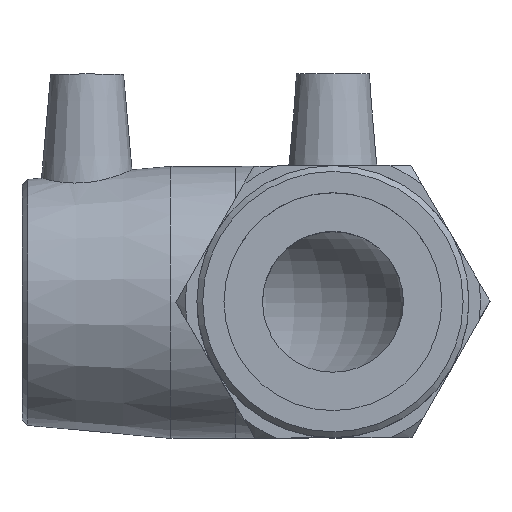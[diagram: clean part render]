
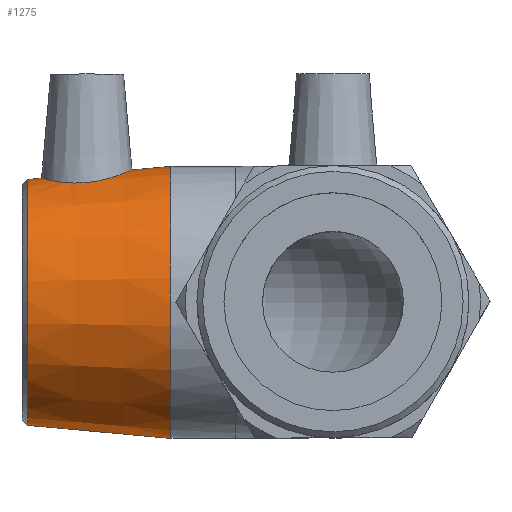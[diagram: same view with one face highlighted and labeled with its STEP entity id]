
A CAD part, top view. The second image highlights one B-rep face of the part: STEP entity #1275.
In plain terms, the highlighted conical face has half-angle 5.217 degrees and reference radius 26.6 mm.
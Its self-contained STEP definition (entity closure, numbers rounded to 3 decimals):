
#17=B_SPLINE_CURVE_WITH_KNOTS('',3,(#2183,#2184,#2185,#2186,#2187,#2188,
#2189,#2190,#2191,#2192,#2193,#2194,#2195,#2196,#2197,#2198,#2199,#2200,
#2201,#2202,#2203,#2204,#2205,#2206,#2207,#2208,#2209,#2210,#2211,#2212,
#2213,#2214,#2215,#2216),.UNSPECIFIED.,.T.,.F.,(4,2,2,2,2,2,2,2,2,2,2,2,
2,2,2,2,4),(0.,0.346,0.692,1.041,1.389,
1.738,2.087,2.432,2.778,3.15,
3.522,3.886,4.249,4.612,4.976,
5.347,5.719),.UNSPECIFIED.);
#24=FACE_BOUND('',#250,.T.);
#25=FACE_BOUND('',#251,.T.);
#123=CONICAL_SURFACE('',#1411,26.6,5.217);
#168=FACE_OUTER_BOUND('',#249,.T.);
#249=EDGE_LOOP('',(#1043));
#250=EDGE_LOOP('',(#1044));
#251=EDGE_LOOP('',(#1045));
#377=CIRCLE('',#1410,25.309);
#378=CIRCLE('',#1412,28.);
#604=VERTEX_POINT('',#2177);
#605=VERTEX_POINT('',#2180);
#606=VERTEX_POINT('',#2182);
#765=EDGE_CURVE('',#604,#604,#377,.T.);
#766=EDGE_CURVE('',#605,#605,#378,.T.);
#767=EDGE_CURVE('',#606,#606,#17,.T.);
#1043=ORIENTED_EDGE('',*,*,#766,.F.);
#1044=ORIENTED_EDGE('',*,*,#767,.T.);
#1045=ORIENTED_EDGE('',*,*,#765,.F.);
#1275=ADVANCED_FACE('',(#168,#24,#25),#123,.T.);
#1410=AXIS2_PLACEMENT_3D('',#2178,#1719,#1720);
#1411=AXIS2_PLACEMENT_3D('',#2179,#1721,#1722);
#1412=AXIS2_PLACEMENT_3D('',#2181,#1723,#1724);
#1719=DIRECTION('center_axis',(-1.,0.,0.));
#1720=DIRECTION('ref_axis',(0.,-1.,0.));
#1721=DIRECTION('center_axis',(1.,0.,0.));
#1722=DIRECTION('ref_axis',(0.,1.,0.));
#1723=DIRECTION('center_axis',(1.,0.,0.));
#1724=DIRECTION('ref_axis',(0.,0.,-1.));
#2177=CARTESIAN_POINT('',(-62.805,25.309,0.));
#2178=CARTESIAN_POINT('Origin',(-62.805,0.,0.));
#2179=CARTESIAN_POINT('Origin',(-48.667,0.,
0.));
#2180=CARTESIAN_POINT('',(-33.333,28.,0.));
#2181=CARTESIAN_POINT('Origin',(-33.333,0.,
0.));
#2182=CARTESIAN_POINT('',(-50.979,24.639,9.449));
#2183=CARTESIAN_POINT('Ctrl Pts',(-50.979,24.639,9.449));
#2184=CARTESIAN_POINT('Ctrl Pts',(-52.128,24.541,9.411));
#2185=CARTESIAN_POINT('Ctrl Pts',(-53.346,24.53,9.141));
#2186=CARTESIAN_POINT('Ctrl Pts',(-55.569,24.668,8.135));
#2187=CARTESIAN_POINT('Ctrl Pts',(-56.574,24.812,7.4));
#2188=CARTESIAN_POINT('Ctrl Pts',(-58.157,25.101,5.735));
#2189=CARTESIAN_POINT('Ctrl Pts',(-58.842,25.266,4.687));
#2190=CARTESIAN_POINT('Ctrl Pts',(-59.751,25.501,2.401));
#2191=CARTESIAN_POINT('Ctrl Pts',(-59.975,25.567,1.162));
#2192=CARTESIAN_POINT('Ctrl Pts',(-59.975,25.567,-1.162));
#2193=CARTESIAN_POINT('Ctrl Pts',(-59.751,25.501,-2.401));
#2194=CARTESIAN_POINT('Ctrl Pts',(-58.842,25.266,-4.687));
#2195=CARTESIAN_POINT('Ctrl Pts',(-58.157,25.101,-5.735));
#2196=CARTESIAN_POINT('Ctrl Pts',(-56.574,24.812,-7.4));
#2197=CARTESIAN_POINT('Ctrl Pts',(-55.569,24.668,-8.135));
#2198=CARTESIAN_POINT('Ctrl Pts',(-53.346,24.53,-9.141));
#2199=CARTESIAN_POINT('Ctrl Pts',(-52.128,24.541,-9.411));
#2200=CARTESIAN_POINT('Ctrl Pts',(-49.745,24.745,-9.489));
#2201=CARTESIAN_POINT('Ctrl Pts',(-48.443,24.961,-9.267));
#2202=CARTESIAN_POINT('Ctrl Pts',(-46.067,25.524,-8.31));
#2203=CARTESIAN_POINT('Ctrl Pts',(-44.991,25.864,-7.576));
#2204=CARTESIAN_POINT('Ctrl Pts',(-43.312,26.455,-5.891));
#2205=CARTESIAN_POINT('Ctrl Pts',(-42.586,26.748,-4.832));
#2206=CARTESIAN_POINT('Ctrl Pts',(-41.617,27.155,-2.493));
#2207=CARTESIAN_POINT('Ctrl Pts',(-41.373,27.266,-1.211));
#2208=CARTESIAN_POINT('Ctrl Pts',(-41.373,27.266,1.211));
#2209=CARTESIAN_POINT('Ctrl Pts',(-41.617,27.155,2.493));
#2210=CARTESIAN_POINT('Ctrl Pts',(-42.586,26.748,4.832));
#2211=CARTESIAN_POINT('Ctrl Pts',(-43.312,26.455,5.891));
#2212=CARTESIAN_POINT('Ctrl Pts',(-44.991,25.864,7.576));
#2213=CARTESIAN_POINT('Ctrl Pts',(-46.067,25.524,8.31));
#2214=CARTESIAN_POINT('Ctrl Pts',(-48.443,24.961,9.267));
#2215=CARTESIAN_POINT('Ctrl Pts',(-49.745,24.745,9.489));
#2216=CARTESIAN_POINT('Ctrl Pts',(-50.979,24.639,9.449));
